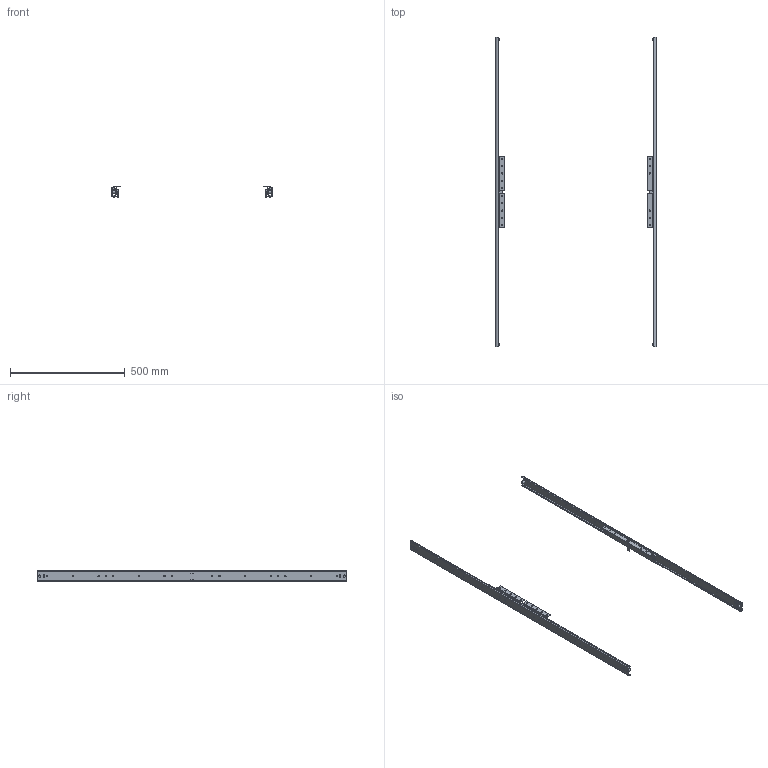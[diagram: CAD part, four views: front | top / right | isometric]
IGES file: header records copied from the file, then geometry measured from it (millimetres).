
Start section: Data from Parasolid IGES Translator 15.0.47, Copyright(c) 2006 Siemens P LM Software. All Rights Reserved.
Global section: file name: 9079741.igs; native system:  By UGS Corp.; preprocessor: XPlus GENERIC/IGES 3.0; author: Noname; organization: Noname; date: 20140620.121739; units: millimetre
Bounding box: 700 x 1350 x 50.9 mm (x, y, z)
Surface area: 450882.1 mm2 (no closed solid volume)
Topology: 0 solids, 0 shells, 212 faces, 1192 edges, 1072 vertices
Faces by surface type: extrusion 136, revolution 76
